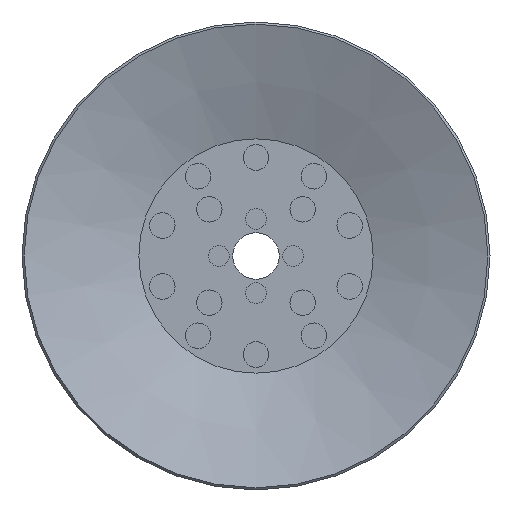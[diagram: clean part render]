
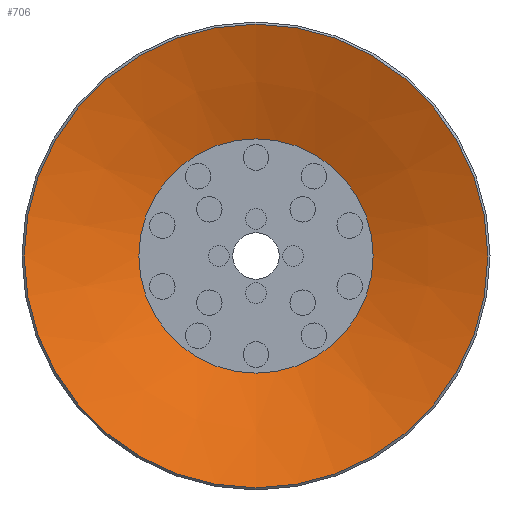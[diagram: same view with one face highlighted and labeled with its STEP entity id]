
A CAD part, front view. The second image highlights one B-rep face of the part: STEP entity #706.
In plain terms, the highlighted conical face has half-angle 70 degrees and reference radius 10 mm.
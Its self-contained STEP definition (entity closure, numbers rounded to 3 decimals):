
#706=ADVANCED_FACE('',(#1075,#1076),#1077,.F.);
#1075=FACE_BOUND('',#1553,.T.);
#1076=FACE_OUTER_BOUND('',#1554,.T.);
#1077=CONICAL_SURFACE('',#1555,10.0,1.222);
#1553=EDGE_LOOP('',(#2517));
#1554=EDGE_LOOP('',(#2518));
#1555=AXIS2_PLACEMENT_3D('',#2519,#2520,#2521);
#2517=ORIENTED_EDGE('',*,*,#3004,.T.);
#2518=ORIENTED_EDGE('',*,*,#3005,.F.);
#2519=CARTESIAN_POINT('',(0.0,0.,0.));
#2520=DIRECTION('',(0.0,0.,-1.0));
#2521=DIRECTION('',(0.0,1.0,0.));
#3004=EDGE_CURVE('',#3419,#3419,#3420,.T.);
#3005=EDGE_CURVE('',#3421,#3421,#3422,.T.);
#3419=VERTEX_POINT('',#4129);
#3420=CIRCLE('',#4130,5.055);
#3421=VERTEX_POINT('',#4131);
#3422=CIRCLE('',#4132,10.0);
#4129=CARTESIAN_POINT('',(0.0,-5.055,1.8));
#4130=AXIS2_PLACEMENT_3D('',#4583,#4584,#4585);
#4131=CARTESIAN_POINT('',(0.0,-10.0,0.));
#4132=AXIS2_PLACEMENT_3D('',#4586,#4587,#4588);
#4583=CARTESIAN_POINT('',(0.0,0.,1.8));
#4584=DIRECTION('',(0.0,0.,1.0));
#4585=DIRECTION('',(0.0,-1.0,0.));
#4586=CARTESIAN_POINT('',(0.0,0.,0.));
#4587=DIRECTION('',(0.0,0.,1.0));
#4588=DIRECTION('',(0.0,-1.0,0.));
